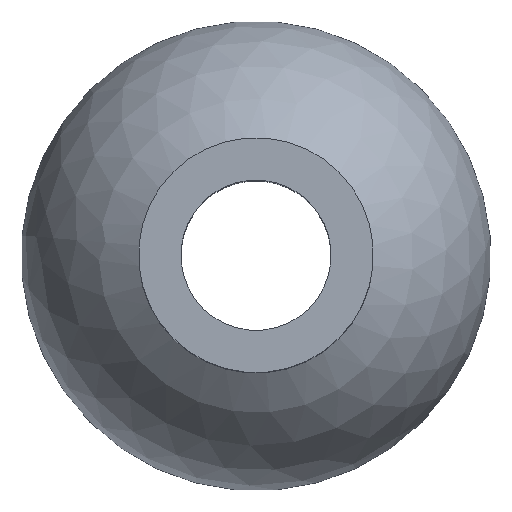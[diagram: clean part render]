
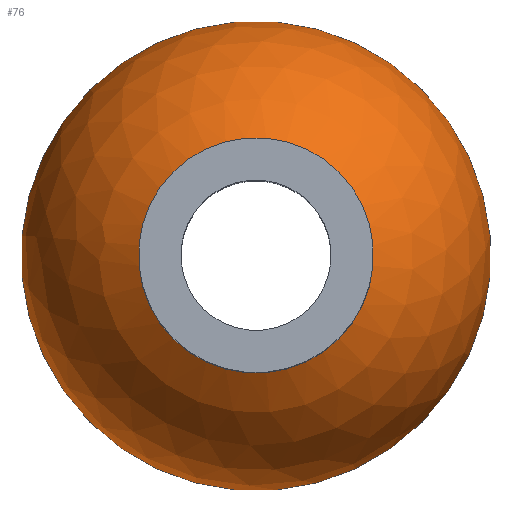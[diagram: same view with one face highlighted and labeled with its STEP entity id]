
A CAD part, top view. The second image highlights one B-rep face of the part: STEP entity #76.
In plain terms, the highlighted spherical face has radius 5 mm.
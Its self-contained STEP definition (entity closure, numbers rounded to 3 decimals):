
#15=SPHERICAL_SURFACE('',#99,5.);
#23=FACE_OUTER_BOUND('',#29,.T.);
#29=EDGE_LOOP('',(#65,#66,#67,#68));
#39=CIRCLE('',#98,2.5);
#40=CIRCLE('',#100,5.);
#41=CIRCLE('',#101,5.);
#45=VERTEX_POINT('',#140);
#46=VERTEX_POINT('',#144);
#51=EDGE_CURVE('',#45,#45,#39,.T.);
#53=EDGE_CURVE('',#46,#46,#40,.T.);
#54=EDGE_CURVE('',#46,#45,#41,.T.);
#65=ORIENTED_EDGE('',*,*,#53,.T.);
#66=ORIENTED_EDGE('',*,*,#54,.T.);
#67=ORIENTED_EDGE('',*,*,#51,.F.);
#68=ORIENTED_EDGE('',*,*,#54,.F.);
#76=ADVANCED_FACE('',(#23),#15,.T.);
#98=AXIS2_PLACEMENT_3D('',#141,#118,#119);
#99=AXIS2_PLACEMENT_3D('',#143,#121,#122);
#100=AXIS2_PLACEMENT_3D('',#145,#123,#124);
#101=AXIS2_PLACEMENT_3D('',#146,#125,#126);
#118=DIRECTION('center_axis',(0.,0.,
1.));
#119=DIRECTION('ref_axis',(0.996,-0.087,0.));
#121=DIRECTION('center_axis',(0.,0.,
-1.));
#122=DIRECTION('ref_axis',(0.996,-0.087,0.));
#123=DIRECTION('center_axis',(0.,0.,1.));
#124=DIRECTION('ref_axis',(0.087,0.996,0.));
#125=DIRECTION('center_axis',(0.087,0.996,0.));
#126=DIRECTION('ref_axis',(-0.996,0.087,0.));
#140=CARTESIAN_POINT('',(-4.298,-0.183,4.33));
#141=CARTESIAN_POINT('Origin',(-1.808,-0.401,4.33));
#143=CARTESIAN_POINT('Origin',(-1.808,-0.401,0.));
#144=CARTESIAN_POINT('',(-6.789,0.034,0.));
#145=CARTESIAN_POINT('Origin',(-1.808,-0.401,0.));
#146=CARTESIAN_POINT('Origin',(-1.808,-0.401,0.));
